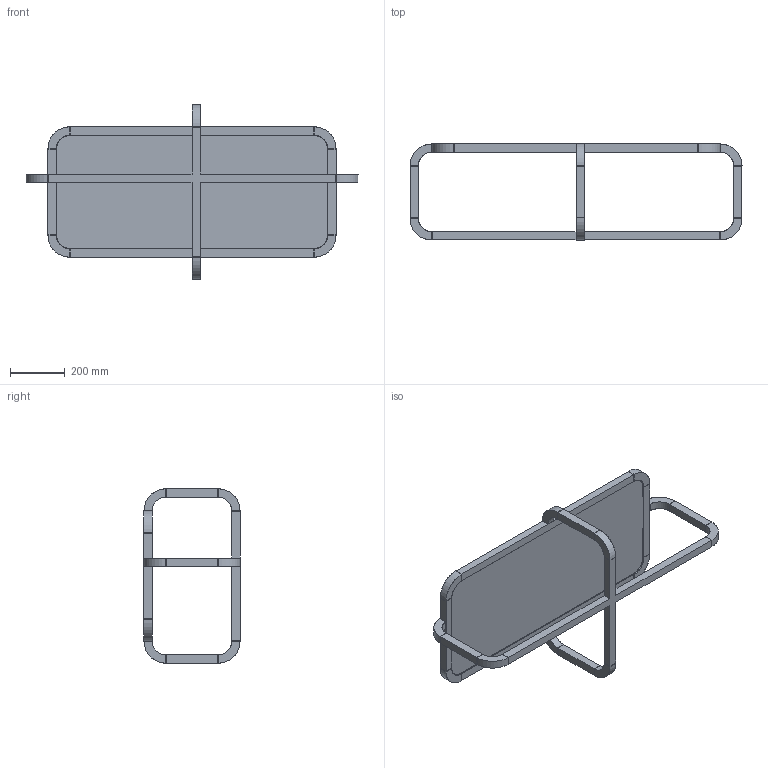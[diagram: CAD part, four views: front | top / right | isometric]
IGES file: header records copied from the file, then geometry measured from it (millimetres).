
Start section: SolidWorks IGES file using analytic representation for surfaces
Global section: file name: C:\Users\Utilizador\Desktop\Sales Files\176\176L Alpha Low Table_3D IGS.IGS; native system: SolidWorks 2016; preprocessor: SolidWorks 2016; author: Utilizador; date: 221104.160751; units: millimetre
Bounding box: 1210 x 350 x 635 mm (x, y, z)
Surface area: 1539469.7 mm2 (no closed solid volume)
Topology: 0 solids, 0 shells, 250 faces, 2176 edges, 2176 vertices
Faces by surface type: bspline 214, revolution 36
